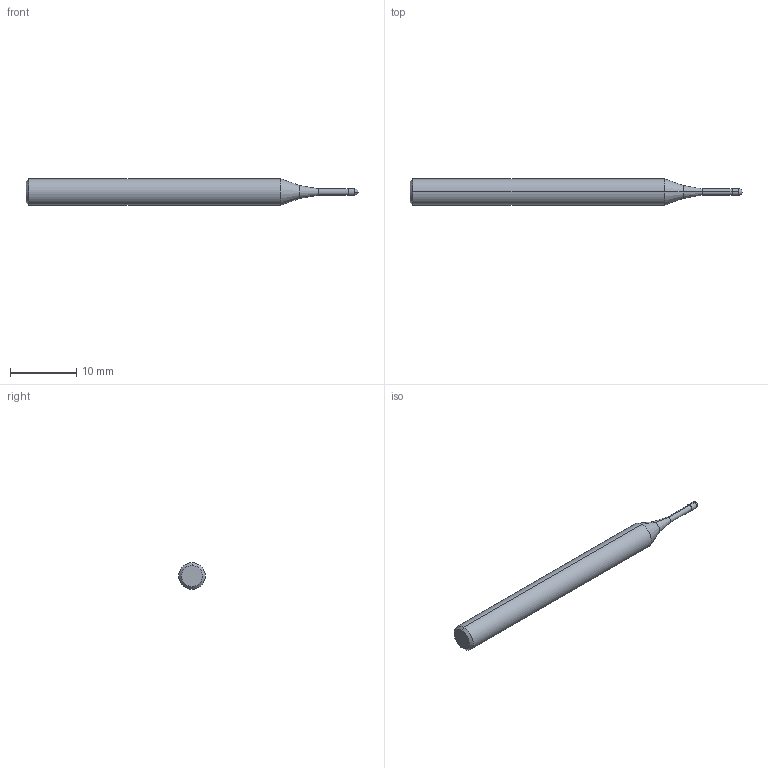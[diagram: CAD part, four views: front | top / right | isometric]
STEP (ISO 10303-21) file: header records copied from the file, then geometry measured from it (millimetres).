
FILE_DESCRIPTION (( 'STEP AP214' ), '1' );
FILE_NAME ('G9B81010.STEP', '2018-07-02T00:55:07', ( 'USER' ), ( '' ), 'SwSTEP 2.0', 'SolidWorks 2014', '' );
FILE_SCHEMA (( 'AUTOMOTIVE_DESIGN' ));
Length unit declared in the file: millimetre
Products named in the file (1): G9B81010
Bounding box: 50 x 4 x 4 mm (x, y, z)
Volume: 510.3 mm3; surface area: 552 mm2
Topology: 2 solids, 2 shells, 17 faces, 34 edges, 19 vertices
Faces by surface type: cylinder 6, cone 6, plane 3, sphere 2
Entity records: 473 total; most frequent: DIRECTION 88, CARTESIAN_POINT 69, ORIENTED_EDGE 64, AXIS2_PLACEMENT_3D 38, EDGE_CURVE 32, CIRCLE 20, VERTEX_POINT 19, ADVANCED_FACE 17
